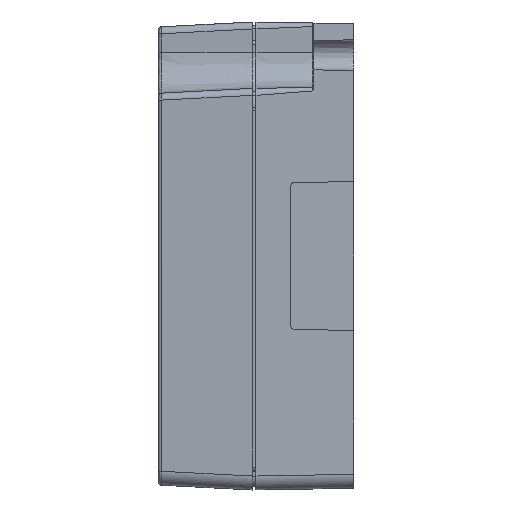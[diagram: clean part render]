
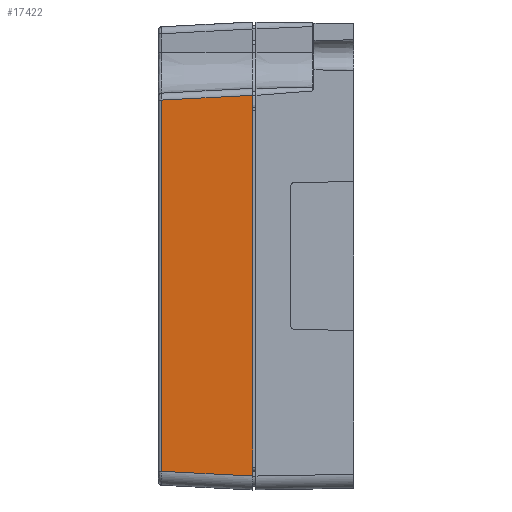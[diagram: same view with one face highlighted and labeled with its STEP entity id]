
A CAD part, left-side view. The second image highlights one B-rep face of the part: STEP entity #17422.
In plain terms, the highlighted planar face has unit normal (-0.999, 0.052, 0).
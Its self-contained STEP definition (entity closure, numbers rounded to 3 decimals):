
#2394 = CARTESIAN_POINT ( 'NONE',  ( -13.884, 72.676, 80.074 ) ) ;
#2702 = VECTOR ( 'NONE', #20149, 1000. ) ;
#4222 = VECTOR ( 'NONE', #19447, 1000. ) ;
#4728 = AXIS2_PLACEMENT_3D ( 'NONE', #17349, #11491, #21460 ) ;
#5218 = LINE ( 'NONE', #8621, #10862 ) ;
#5530 = EDGE_CURVE ( 'NONE', #19746, #25147, #5218, .T. ) ;
#5858 = FACE_OUTER_BOUND ( 'NONE', #12965, .T. ) ;
#6082 = ORIENTED_EDGE ( 'NONE', *, *, #6663, .F. ) ;
#6333 = VERTEX_POINT ( 'NONE', #15513 ) ;
#6449 = VERTEX_POINT ( 'NONE', #14012 ) ;
#6663 = EDGE_CURVE ( 'NONE', #6449, #6333, #12138, .T. ) ;
#6684 = DIRECTION ( 'NONE',  ( -0.052, -0.997, -0.052 ) ) ;
#6708 = ORIENTED_EDGE ( 'NONE', *, *, #7910, .F. ) ;
#7910 = EDGE_CURVE ( 'NONE', #6333, #25147, #14519, .T. ) ;
#8145 = ORIENTED_EDGE ( 'NONE', *, *, #5530, .T. ) ;
#8621 = CARTESIAN_POINT ( 'NONE',  ( -14.226, 66.141, 53.162 ) ) ;
#8667 = LINE ( 'NONE', #2394, #2702 ) ;
#9772 = CARTESIAN_POINT ( 'NONE',  ( -14.566, 59.65, 107.326 ) ) ;
#10862 = VECTOR ( 'NONE', #6684, 1000. ) ;
#11491 = DIRECTION ( 'NONE',  ( -0.999, 0.052, 0. ) ) ;
#11862 = CARTESIAN_POINT ( 'NONE',  ( -14.339, 63.992, 107.098 ) ) ;
#12138 = B_SPLINE_CURVE_WITH_KNOTS ( 'NONE', 3,
 ( #14888, #25499, #11862, #9772 ),
 .UNSPECIFIED., .F., .F.,
 ( 4, 4 ),
 ( 0., 1. ),
 .UNSPECIFIED. ) ;
#12965 = EDGE_LOOP ( 'NONE', ( #6708, #6082, #17584, #8145 ) ) ;
#14012 = CARTESIAN_POINT ( 'NONE',  ( -13.884, 72.676, 106.643 ) ) ;
#14519 = LINE ( 'NONE', #25458, #4222 ) ;
#14888 = CARTESIAN_POINT ( 'NONE',  ( -13.884, 72.676, 106.643 ) ) ;
#15513 = CARTESIAN_POINT ( 'NONE',  ( -14.566, 59.65, 107.326 ) ) ;
#16381 = CARTESIAN_POINT ( 'NONE',  ( -13.884, 72.676, 53.504 ) ) ;
#17349 = CARTESIAN_POINT ( 'NONE',  ( -13.87, 72.936, 108.416 ) ) ;
#17422 = ADVANCED_FACE ( 'NONE', ( #5858 ), #19367, .T. ) ;
#17584 = ORIENTED_EDGE ( 'NONE', *, *, #17681, .T. ) ;
#17647 = CARTESIAN_POINT ( 'NONE',  ( -14.566, 59.65, 52.821 ) ) ;
#17681 = EDGE_CURVE ( 'NONE', #6449, #19746, #8667, .T. ) ;
#19367 = PLANE ( 'NONE',  #4728 ) ;
#19447 = DIRECTION ( 'NONE',  ( 0., 0., -1. ) ) ;
#19746 = VERTEX_POINT ( 'NONE', #16381 ) ;
#20149 = DIRECTION ( 'NONE',  ( 0., 0., -1. ) ) ;
#21460 = DIRECTION ( 'NONE',  ( 0., 0., -1. ) ) ;
#25147 = VERTEX_POINT ( 'NONE', #17647 ) ;
#25458 = CARTESIAN_POINT ( 'NONE',  ( -14.566, 59.65, 80.074 ) ) ;
#25499 = CARTESIAN_POINT ( 'NONE',  ( -14.111, 68.334, 106.87 ) ) ;
